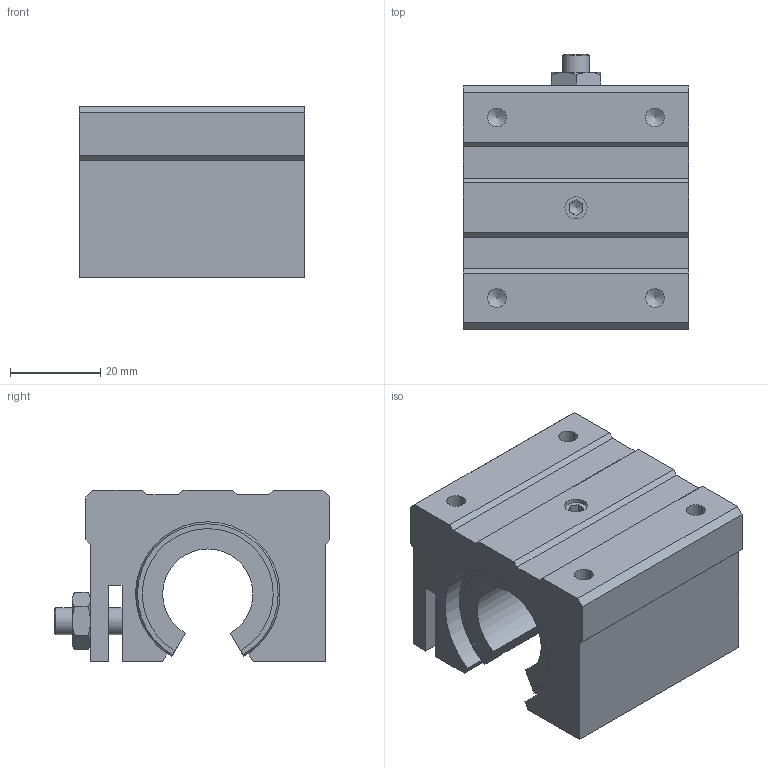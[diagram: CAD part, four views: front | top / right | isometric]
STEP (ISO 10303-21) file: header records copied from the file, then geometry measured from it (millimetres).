
FILE_DESCRIPTION((''),'2;1');
FILE_NAME('D:\製品 (図面)\カタログ用3D\GTA20H.stp','2010-06-07T16:11:58',('Tsuchiya'),(''),'Autodesk Inventor 10','Autodesk Inventor 10','');
FILE_SCHEMA(('AUTOMOTIVE_DESIGN { 1 0 10303 214 1 1 1 1 }'));
Length unit declared in the file: millimetre
Products named in the file (1): GTA20H
Bounding box: 50 x 61 x 38 mm (x, y, z)
Volume: 73020.7 mm3; surface area: 18506.3 mm2
Topology: 1 solids, 1 shells, 101 faces, 274 edges, 174 vertices
Faces by surface type: plane 57, cylinder 17, cone 15, bspline 10, torus 2
Full cylindrical faces by diameter (mm): 6 x2
Entity records: 3090 total; most frequent: CARTESIAN_POINT 742, ORIENTED_EDGE 498, DIRECTION 460, EDGE_CURVE 249, VERTEX_POINT 163, AXIS2_PLACEMENT_3D 155, VECTOR 150, LINE 150
